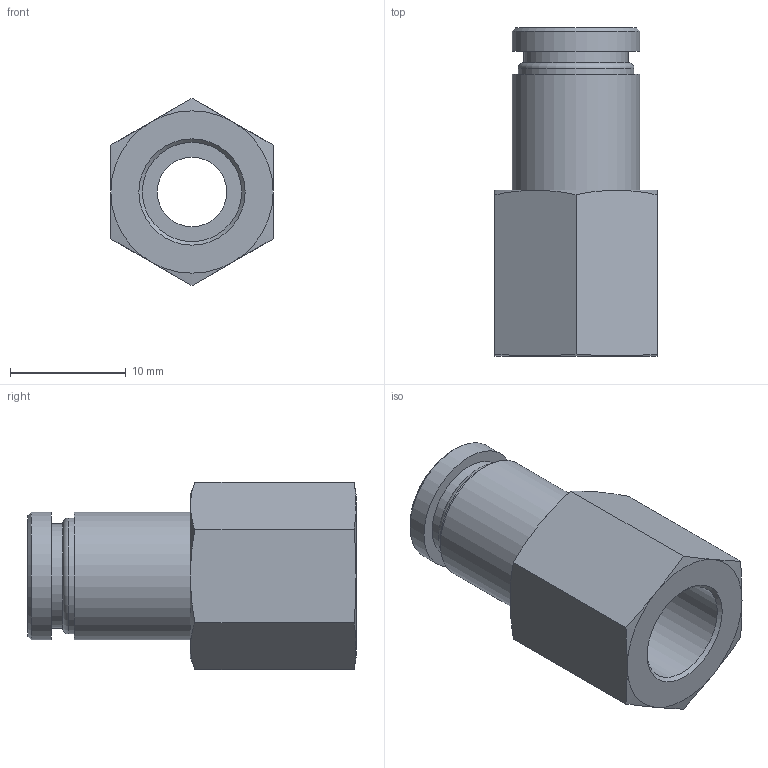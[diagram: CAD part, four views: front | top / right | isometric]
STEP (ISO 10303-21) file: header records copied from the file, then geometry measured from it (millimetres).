
FILE_DESCRIPTION(/* description */ (''),/* implementation_level */ '2;1');
FILE_NAME(/* name */ 'LXH14 0008 B1.stp',/* time_stamp */ '2026-04-27T19:16:57+02:00',/* author */ ('freju'),/* organization */ (''),/* preprocessor_version */ 'ST-DEVELOPER v20.1',/* originating_system */ 'Autodesk Inventor 2026',/* authorisation */ '');
FILE_SCHEMA (('AUTOMOTIVE_DESIGN { 1 0 10303 214 3 1 1 }'));
Length unit declared in the file: millimetre
Products named in the file (1): LXH14 0008 B1
Bounding box: 14 x 28.3 x 16.17 mm (x, y, z)
Volume: 2268.9 mm3; surface area: 2199.3 mm2
Topology: 1 solids, 1 shells, 35 faces, 72 edges, 44 vertices
Faces by surface type: cone 14, plane 13, cylinder 7, torus 1
Full cylindrical faces by diameter (mm): 6 x1, 8 x1, 8.566 x1, 9 x1, 10 x1, 11 x2
Entity records: 946 total; most frequent: CARTESIAN_POINT 200, DIRECTION 153, ORIENTED_EDGE 144, EDGE_CURVE 72, AXIS2_PLACEMENT_3D 69, VERTEX_POINT 44, EDGE_LOOP 42, FACE_OUTER_BOUND 35
